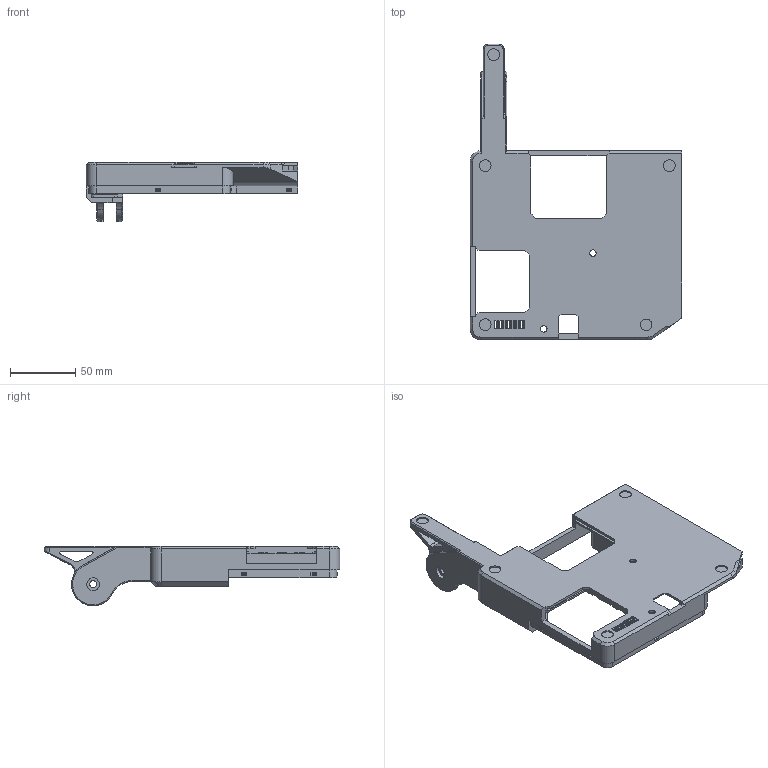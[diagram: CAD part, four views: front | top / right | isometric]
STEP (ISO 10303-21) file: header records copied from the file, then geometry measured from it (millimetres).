
FILE_DESCRIPTION(/* description */ ('STEP AP242','CAx-IF Rec.Pracs.---Representation and Presentation of Product Manufacturing Information (PMI)---4.0---2014-10-13','CAx-IF Rec.Pracs.---3D Tessellated Geometry---0.4---2014-09-14','2;1'),/* implementation_level */ '2;1');
FILE_NAME(/* name */ '687e6c79f344454910d4850f',/* time_stamp */ '2025-07-21T16:36:09Z',/* author */ (''),/* organization */ (''),/* preprocessor_version */ 'ST-DEVELOPER v20',/* originating_system */ 'ONSHAPE BY PTC INC, 1.201',/* authorisation */ ' ');
FILE_SCHEMA (('AP242_MANAGED_MODEL_BASED_3D_ENGINEERING_MIM_LF { 1 0 10303 442 1 1 4 }'));
Length unit declared in the file: metre
Products named in the file (1): Right Base
Bounding box: 162.07 x 226.19 x 45.45 mm (x, y, z)
Volume: 141987.5 mm3; surface area: 80838.4 mm2
Topology: 1 solids, 1 shells, 493 faces, 1383 edges, 905 vertices
Faces by surface type: plane 348, cylinder 122, cone 21, bspline 2
Full cylindrical faces by diameter (mm): 1.4 x1, 4.8 x1, 5 x6, 5.3 x2, 7.5 x1, 9 x5, 9.75 x1
Entity records: 15790 total; most frequent: CARTESIAN_POINT 2848, ORIENTED_EDGE 2722, DIRECTION 2606, EDGE_CURVE 1361, LINE 1070, VECTOR 1070, VERTEX_POINT 900, AXIS2_PLACEMENT_3D 768
